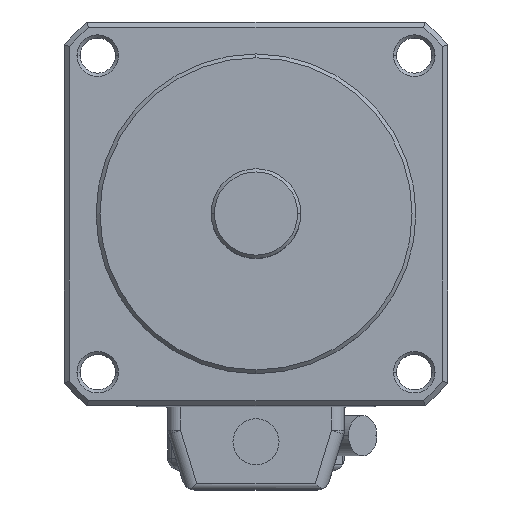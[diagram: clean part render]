
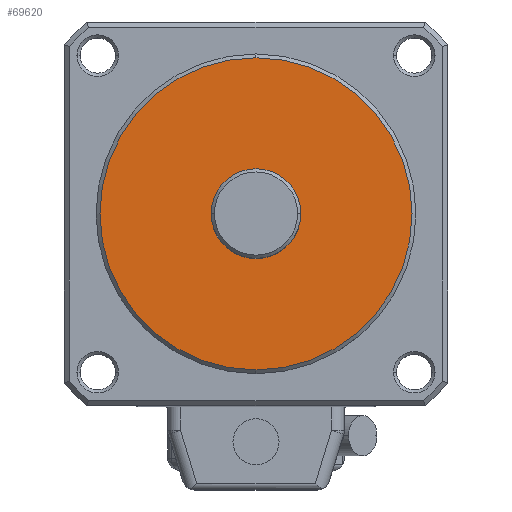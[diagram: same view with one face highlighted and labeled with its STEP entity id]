
A CAD part, top view. The second image highlights one B-rep face of the part: STEP entity #69620.
In plain terms, the highlighted planar face has unit normal (0, 0, 1).
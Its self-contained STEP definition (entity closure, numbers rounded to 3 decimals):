
#69230=CARTESIAN_POINT('',(-24.4,-24.4,25.));
#69240=DIRECTION('',(0.,0.,1.));
#69250=DIRECTION('',(1.,0.,0.));
#69260=AXIS2_PLACEMENT_3D('',#69230,#69240,#69250);
#69270=PLANE('',#69260);
#69280=CARTESIAN_POINT('',(0.,0.,25.
));
#69290=DIRECTION('',(0.,0.,1.));
#69300=DIRECTION('',(1.,0.,0.));
#69310=AXIS2_PLACEMENT_3D('',#69280,#69290,#69300);
#69320=CIRCLE('',#69310,7.);
#69330=CARTESIAN_POINT('',(-7.,0.,25.));
#69340=VERTEX_POINT('',#69330);
#69350=CARTESIAN_POINT('',(7.,0.,25.));
#69360=VERTEX_POINT('',#69350);
#69370=EDGE_CURVE('',#69340,#69360,#69320,.T.);
#69380=ORIENTED_EDGE('',*,*,#69370,.F.);
#69390=EDGE_CURVE('',#69360,#69340,#69320,.T.);
#69400=ORIENTED_EDGE('',*,*,#69390,.F.);
#69410=EDGE_LOOP('',(#69400,#69380));
#69420=FACE_BOUND('',#69410,.T.);
#69430=CARTESIAN_POINT('',(0.,0.,
25.));
#69440=DIRECTION('',(0.,0.,1.));
#69450=DIRECTION('',(0.,-1.,0.));
#69460=AXIS2_PLACEMENT_3D('',#69430,#69440,#69450);
#69470=CIRCLE('',#69460,24.4);
#69480=CARTESIAN_POINT('',(0.,24.4,25.));
#69490=VERTEX_POINT('',#69480);
#69500=CARTESIAN_POINT('',(0.,-24.4,25.));
#69510=VERTEX_POINT('',#69500);
#69520=EDGE_CURVE('',#69490,#69510,#69470,.T.);
#69530=ORIENTED_EDGE('',*,*,#69520,.T.);
#69540=CARTESIAN_POINT('',(24.4,0.,25.));
#69550=VERTEX_POINT('',#69540);
#69560=EDGE_CURVE('',#69550,#69490,#69470,.T.);
#69570=ORIENTED_EDGE('',*,*,#69560,.T.);
#69580=EDGE_CURVE('',#69510,#69550,#69470,.T.);
#69590=ORIENTED_EDGE('',*,*,#69580,.T.);
#69600=EDGE_LOOP('',(#69590,#69570,#69530));
#69610=FACE_OUTER_BOUND('',#69600,.T.);
#69620=ADVANCED_FACE('',(#69420,#69610),#69270,.T.);
